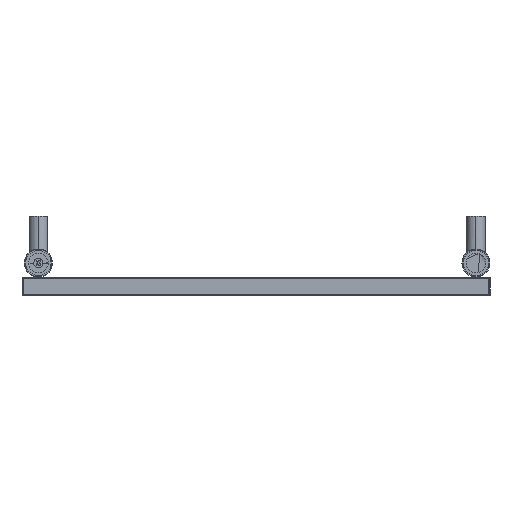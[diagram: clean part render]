
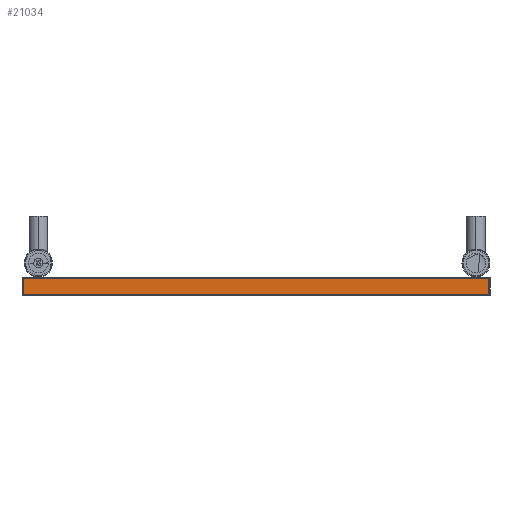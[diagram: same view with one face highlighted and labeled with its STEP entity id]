
A CAD part, front view. The second image highlights one B-rep face of the part: STEP entity #21034.
In plain terms, the highlighted planar face has unit normal (0, -1, 0).
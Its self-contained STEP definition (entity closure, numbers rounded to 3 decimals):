
#297 = VECTOR ( 'NONE', #16037, 1000. ) ;
#749 = EDGE_CURVE ( 'NONE', #11082, #21413, #10715, .T. ) ;
#1025 = CARTESIAN_POINT ( 'NONE',  ( 249.5, -7.5, 9.75 ) ) ;
#1026 = CARTESIAN_POINT ( 'NONE',  ( -249.5, -7.5, -9.75 ) ) ;
#2357 = ORIENTED_EDGE ( 'NONE', *, *, #13870, .T. ) ;
#2902 = VECTOR ( 'NONE', #21075, 1000. ) ;
#3323 = LINE ( 'NONE', #19855, #297 ) ;
#3376 = CARTESIAN_POINT ( 'NONE',  ( 250., -7.5, 10. ) ) ;
#4105 = DIRECTION ( 'NONE',  ( -1., 0., 0. ) ) ;
#5351 = EDGE_CURVE ( 'NONE', #8615, #8837, #24016, .T. ) ;
#6561 = CARTESIAN_POINT ( 'NONE',  ( 249.5, -7.5, 10. ) ) ;
#8615 = VERTEX_POINT ( 'NONE', #1026 ) ;
#8837 = VERTEX_POINT ( 'NONE', #16177 ) ;
#9776 = CARTESIAN_POINT ( 'NONE',  ( 250., -7.5, -9.75 ) ) ;
#9948 = CARTESIAN_POINT ( 'NONE',  ( -249.5, -7.5, 9.75 ) ) ;
#9972 = PLANE ( 'NONE',  #19630 ) ;
#10715 = LINE ( 'NONE', #24953, #17460 ) ;
#11082 = VERTEX_POINT ( 'NONE', #1025 ) ;
#11200 = EDGE_CURVE ( 'NONE', #21413, #8615, #3323, .T. ) ;
#12140 = EDGE_LOOP ( 'NONE', ( #22473, #16014, #26481, #2357 ) ) ;
#13870 = EDGE_CURVE ( 'NONE', #8837, #11082, #23475, .T. ) ;
#13918 = DIRECTION ( 'NONE',  ( 0., 0., 1. ) ) ;
#15959 = DIRECTION ( 'NONE',  ( 0., 1., 0. ) ) ;
#16014 = ORIENTED_EDGE ( 'NONE', *, *, #11200, .T. ) ;
#16037 = DIRECTION ( 'NONE',  ( 0., 0., -1. ) ) ;
#16177 = CARTESIAN_POINT ( 'NONE',  ( 249.5, -7.5, -9.75 ) ) ;
#17460 = VECTOR ( 'NONE', #4105, 1000. ) ;
#19630 = AXIS2_PLACEMENT_3D ( 'NONE', #3376, #15959, #13918 ) ;
#19855 = CARTESIAN_POINT ( 'NONE',  ( -249.5, -7.5, -9.75 ) ) ;
#21034 = ADVANCED_FACE ( 'NONE', ( #26527 ), #9972, .F. ) ;
#21075 = DIRECTION ( 'NONE',  ( 0., 0., 1. ) ) ;
#21413 = VERTEX_POINT ( 'NONE', #9948 ) ;
#22004 = DIRECTION ( 'NONE',  ( 1., 0., 0. ) ) ;
#22473 = ORIENTED_EDGE ( 'NONE', *, *, #749, .T. ) ;
#23475 = LINE ( 'NONE', #6561, #2902 ) ;
#24016 = LINE ( 'NONE', #9776, #25733 ) ;
#24953 = CARTESIAN_POINT ( 'NONE',  ( 250., -7.5, 9.75 ) ) ;
#25733 = VECTOR ( 'NONE', #22004, 1000. ) ;
#26481 = ORIENTED_EDGE ( 'NONE', *, *, #5351, .T. ) ;
#26527 = FACE_OUTER_BOUND ( 'NONE', #12140, .T. ) ;
